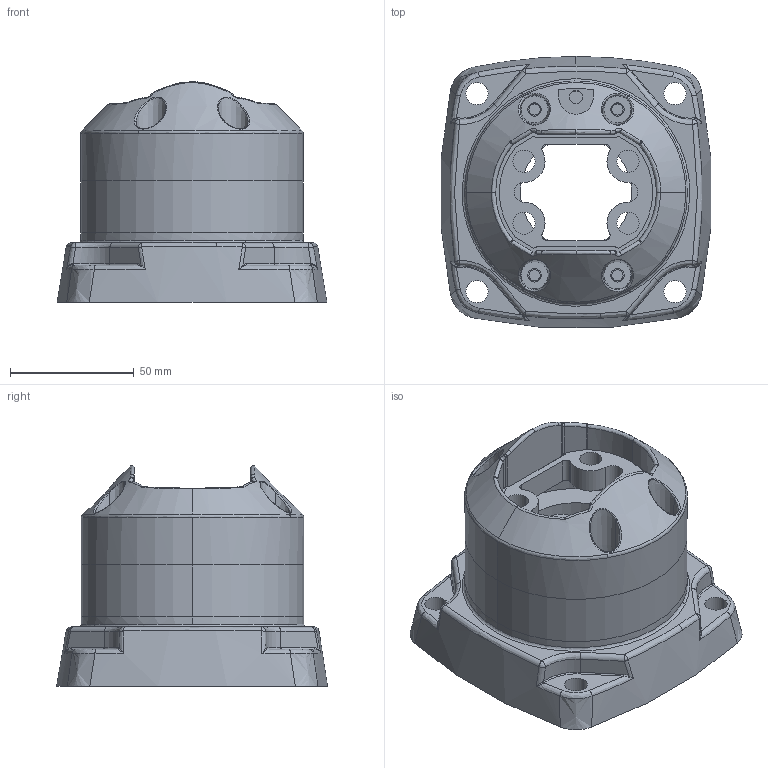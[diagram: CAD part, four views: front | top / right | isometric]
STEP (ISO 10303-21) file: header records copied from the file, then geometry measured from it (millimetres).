
FILE_DESCRIPTION (( 'STEP AP203' ), '1' );
FILE_NAME ('50-65-5080.STEP', '2019-10-03T05:25:49', ( 'User' ), ( 'Microsoft' ), 'SwSTEP 2.0', 'SolidWorks 2017', '' );
FILE_SCHEMA (( 'CONFIG_CONTROL_DESIGN' ));
Length unit declared in the file: millimetre
Products named in the file (4): 50-唅蛌菁釱2; 50-65-5080; 50-唅蛌菁釱; 50-唅蛌菁釱3
Assembly tree (3 placements, depth 2):
  50-65-5080
    50-唅蛌菁釱
    50-唅蛌菁釱3
    50-唅蛌菁釱2
Bounding box: 109.03 x 109.51 x 89.09 mm (x, y, z)
Volume: 282446.3 mm3; surface area: 101487.6 mm2
Topology: 3 solids, 3 shells, 459 faces, 1210 edges, 771 vertices
Faces by surface type: cylinder 196, bspline 137, plane 101, cone 25
Entity records: 25472 total; most frequent: CARTESIAN_POINT 14384, ORIENTED_EDGE 2400, DIRECTION 2026, EDGE_CURVE 1200, AXIS2_PLACEMENT_3D 826, VERTEX_POINT 770, EDGE_LOOP 524, CIRCLE 498
